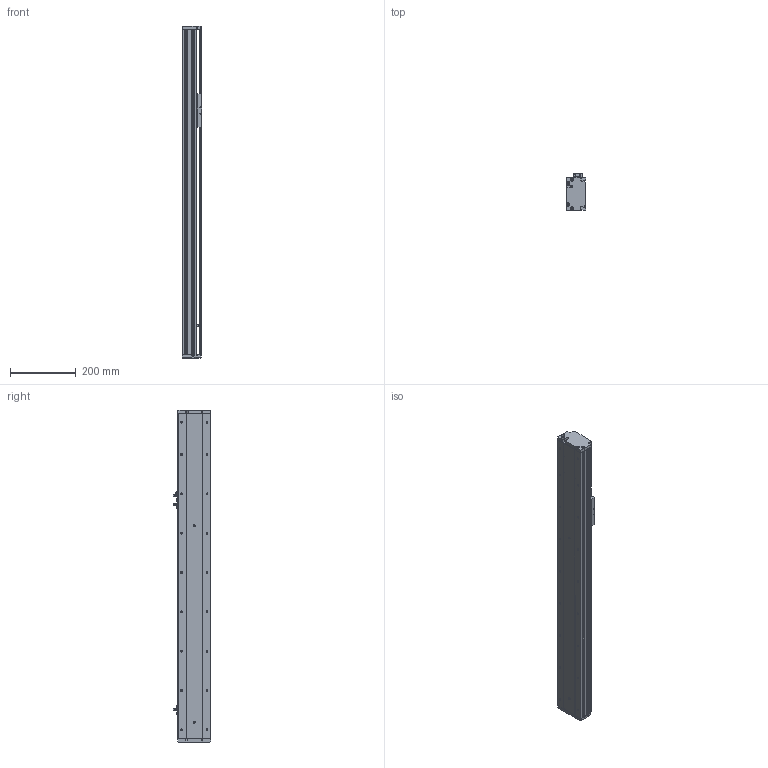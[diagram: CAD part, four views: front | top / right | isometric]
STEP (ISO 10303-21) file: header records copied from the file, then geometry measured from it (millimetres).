
FILE_DESCRIPTION (( 'STEP AP214' ), '1' );
FILE_NAME ('KSD100S-S650-M-CM.STEP', '2019-08-29T09:05:53', ( '微软用户' ), ( '微软中国' ), 'SwSTEP 2.0', 'SolidWorks 2014', '' );
FILE_SCHEMA (( 'AUTOMOTIVE_DESIGN' ));
Length unit declared in the file: millimetre
Products named in the file (8): 100宽防尘板丝杆650行程电机内装; 100宽马达安装板-电机内装; 100宽滚珠螺姆安装板半封闭; 100遵傷啣; 100宽底板半封闭丝杆650行程电机内装; KSD100S-S650-M-CM; 覜茼え100遵圉猾敕; U倰嫖萇EEㄜSX672
Assembly tree (9 placements, depth 2):
  KSD100S-S650-M-CM
    100宽底板半封闭丝杆650行程电机内装
    100遵傷啣
    100宽滚珠螺姆安装板半封闭
    100宽马达安装板-电机内装
    100宽防尘板丝杆650行程电机内装
    U倰嫖萇EEㄜSX672  x3
    覜茼え100遵圉猾敕
Bounding box: 60 x 113.7 x 1013 mm (x, y, z)
Volume: 1954292.2 mm3; surface area: 709142 mm2
Topology: 9 solids, 9 shells, 1081 faces, 3084 edges, 1943 vertices
Faces by surface type: cylinder 508, plane 448, cone 125
Entity records: 37766 total; most frequent: CARTESIAN_POINT 7886, DIRECTION 4897, ORIENTED_EDGE 4820, EDGE_CURVE 2410, AXIS2_PLACEMENT_3D 1758, VERTEX_POINT 1567, LINE 1381, VECTOR 1381
